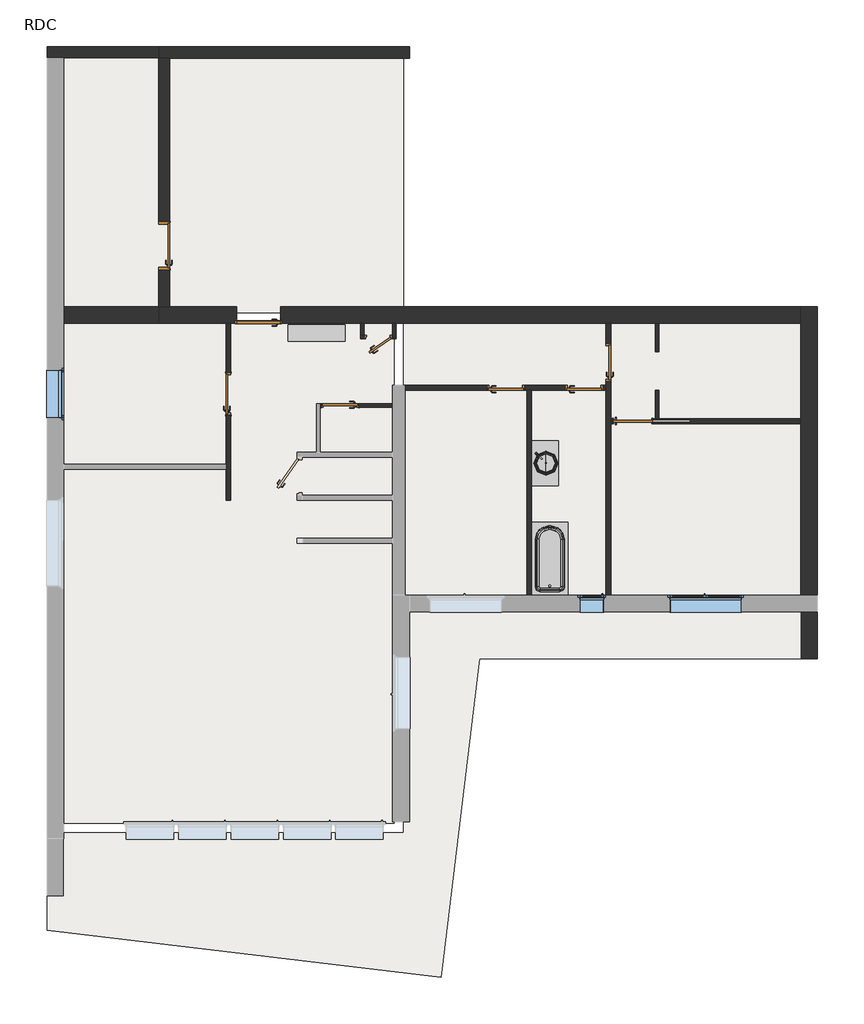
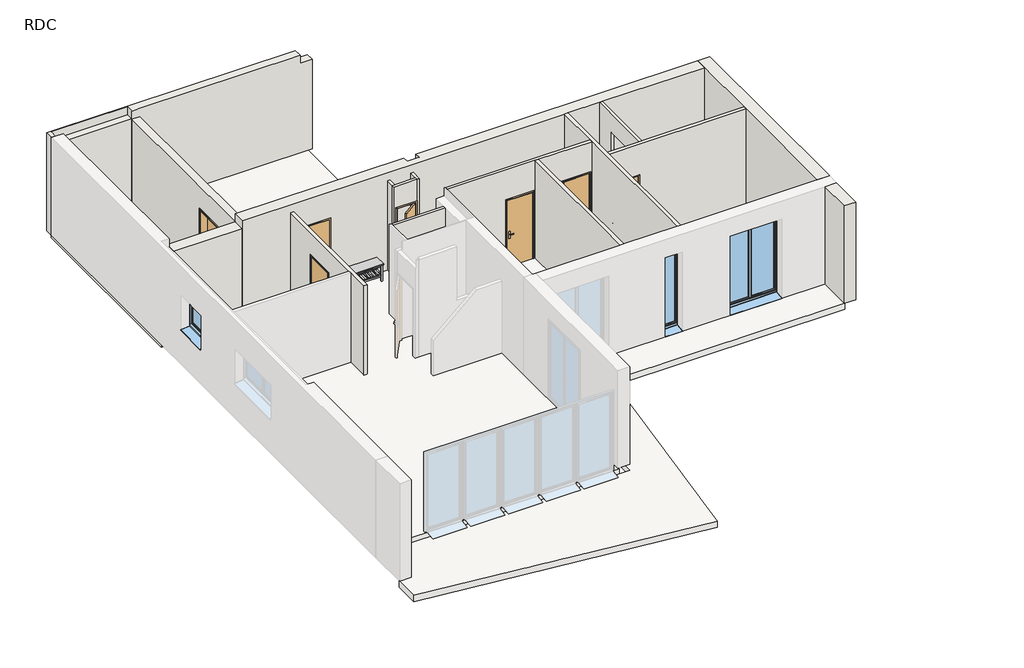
# One storey, part 2 of 2: 17 walls, 9 doors, 3 slabs, 3 windows, 2 flow terminals, 2 furniture elements.
"""IFC4 building model written with IfcOpenShell, lengths in millimetres."""

from ifc_helpers import new_model, si_unit, frame, origin, origin_with_axes, place, context, project, spatial, polyline, outline, extrude, faceted_brep, transform, mapped, element, save
from components import door_41a9e6d8, door_0_80m_x_2_04m_e0b4653d, int_simple_pp_0_53m_x_2_04m_9d17cb83, int_simple_pp_0_73m_x_2_04m_359deddd, int_simple_pp_0_73m_x_2_04m_ba43af2d, int_simple_pp_0_83m_x_2_04m_727c9c46, int_simple_pp_0_93m_x_2_04m_3c3404e0, flow_terminal_414a0167, baignoire_rectangulaire_mur_baignoire_rectangulaire_mur_52e2cdf1, furniture_1200_x_350_x_530_mm_359cf0c6, furniture_900mm_0b803dc7, window_0_50m_x_2_40m_2195513b, window_1_vantail_droit_1_00m_x_1_00m_58547b41, window_1_50m_x_2_40m_e69f112c

model = new_model("IFC4")

# Units and contexts
model_context = context("Model", 3, world=origin())
ifc_project = project(units=[si_unit("LENGTHUNIT", "METRE", prefix="MILLI")], contexts=[model_context])

# Site, building, storey
site = spatial("IfcSite", under=ifc_project)
building = spatial("IfcBuilding", under=site)
storey = spatial("IfcBuildingStorey", under=building, Name="RDC", Elevation=0.0)

# Doors
placement = place(None, origin())
door_shape = door_41a9e6d8(model_context)
element("IfcDoor", 1, ObjectType="Porte d'entrée : PP Lisse (0.90 m x 2.15 m)", at=placement, inside=storey, context=model_context, shape_type="MappedRepresentation", body=[
    mapped(door_shape, transform((-3541.697342, 2229.9574199, 0.0), x_axis=(-1.0, 0.0, 0.0), y_axis=(0.0, -1.0, 0.0), z_axis=(0.0, 0.0, 1.0))),
])
door_0_80m_x_2_04m_shape = door_0_80m_x_2_04m_e0b4653d(model_context)
element("IfcDoor", 2, ObjectType="Coulissante - Encastrée : 0.80m x 2.04m", at=placement, inside=storey, context=model_context, shape_type="MappedRepresentation", body=[
    mapped(door_0_80m_x_2_04m_shape, transform((4300.2977717, -3.0065065, 0.0), x_axis=(-1.0, 0.0, 0.0), y_axis=(0.0, -1.0, 0.0), z_axis=(0.0, 0.0, 1.0))),
])
int_simple_pp_0_53m_x_2_04m_shape = int_simple_pp_0_53m_x_2_04m_9d17cb83(model_context)
element("IfcDoor", 3, ObjectType="Int. Simple : PP (0.53m x 2.04m)", at=placement, inside=storey, context=model_context, shape_type="MappedRepresentation", body=[
    mapped(int_simple_pp_0_53m_x_2_04m_shape, transform((-983.697342, 1771.8961022, 0.0), x_axis=(1.0, 0.0, 0.0), y_axis=(0.0, 1.0, 0.0), z_axis=(0.0, 0.0, 1.0))),
])
int_simple_pp_0_73m_x_2_04m_shape = int_simple_pp_0_73m_x_2_04m_359deddd(model_context)
element("IfcDoor", 4, ObjectType="Int. Simple : PP (0.73m x 2.04m)", at=placement, inside=storey, context=model_context, shape_type="MappedRepresentation", body=[
    mapped(int_simple_pp_0_73m_x_2_04m_shape, transform((-1856.697342, 335.8961022, 0.0), x_axis=(-1.0, 0.0, 0.0), y_axis=(0.0, -1.0, 0.0), z_axis=(0.0, 0.0, 1.0))),
])
int_simple_pp_0_73m_x_2_04m_2_shape = int_simple_pp_0_73m_x_2_04m_ba43af2d(model_context)
element("IfcDoor", 5, ObjectType="Int. Simple : PP (0.73m x 2.04m)", at=placement, inside=storey, context=model_context, shape_type="MappedRepresentation", body=[
    mapped(int_simple_pp_0_73m_x_2_04m_2_shape, transform((1689.302658, 707.8961022, 0.0), x_axis=(1.0, 0.0, 0.0), y_axis=(0.0, 1.0, 0.0), z_axis=(0.0, 0.0, 1.0))),
])
element("IfcDoor", 6, ObjectType="Int. Simple : PP (0.73m x 2.04m)", at=placement, inside=storey, context=model_context, shape_type="MappedRepresentation", body=[
    mapped(int_simple_pp_0_73m_x_2_04m_2_shape, transform((3329.302658, 707.8961022, 0.0), x_axis=(1.0, 0.0, 0.0), y_axis=(0.0, 1.0, 0.0), z_axis=(0.0, 0.0, 1.0))),
])
element("IfcDoor", 7, ObjectType="Int. Simple : PP (0.73m x 2.04m)", at=placement, inside=storey, context=model_context, shape_type="MappedRepresentation", body=[
    mapped(int_simple_pp_0_73m_x_2_04m_2_shape, transform((3804.302658, 1272.8961022, 0.0), x_axis=(0.0, 1.0, 0.0), y_axis=(-1.0, 0.0, 0.0), z_axis=(0.0, 0.0, 1.0))),
])
int_simple_pp_0_83m_x_2_04m_shape = int_simple_pp_0_83m_x_2_04m_727c9c46(model_context)
element("IfcDoor", 8, ObjectType="Int. Simple : PP (0.83m x 2.04m)", at=placement, inside=storey, context=model_context, shape_type="MappedRepresentation", body=[
    mapped(int_simple_pp_0_83m_x_2_04m_shape, transform((-4161.697342, 614.9267611, 0.0), x_axis=(0.0, 1.0, 0.0), y_axis=(-1.0, 0.0, 0.0), z_axis=(0.0, 0.0, 1.0))),
])
int_simple_pp_0_93m_x_2_04m_shape = int_simple_pp_0_93m_x_2_04m_3c3404e0(model_context)
element("IfcDoor", 9, ObjectType="Int. Simple : PP (0.93m x 2.04m)", at=placement, inside=storey, context=model_context, shape_type="MappedRepresentation", body=[
    mapped(int_simple_pp_0_93m_x_2_04m_shape, transform((-5501.5193778, 3719.9574199, 0.0), x_axis=(0.0, 1.0, 0.0), y_axis=(-1.0, 0.0, 0.0), z_axis=(0.0, 0.0, 1.0))),
])

# Flow terminals
flow_terminal_shape = flow_terminal_414a0167(model_context)
element("IfcFlowTerminal", 10, ObjectType="Lavabo moderne : Lavabo moderne", at=placement, inside=storey, context=model_context, shape_type="MappedRepresentation", body=[
    mapped(flow_terminal_shape, transform((2194.302658, -893.8262703, 740.0), x_axis=(0.0, 1.0, 0.0), y_axis=(-1.0, 0.0, 0.0), z_axis=(0.0, 0.0, 1.0))),
])
baignoire_rectangulaire_mur_baignoire_rectangulaire_mur_shape = baignoire_rectangulaire_mur_baignoire_rectangulaire_mur_52e2cdf1(model_context)
element("IfcFlowTerminal", 11, ObjectType="Baignoire rectangulaire - Mur : Baignoire rectangulaire - Mur", at=placement, inside=storey, context=model_context, shape_type="MappedRepresentation", body=[
    mapped(baignoire_rectangulaire_mur_baignoire_rectangulaire_mur_shape, transform((2144.302658, -2524.4396113, 0.0), x_axis=(0.0, 1.0, 0.0), y_axis=(-1.0, 0.0, 0.0), z_axis=(0.0, 0.0, 1.0))),
])

# Furniture
furniture_1200_x_350_x_530_mm_shape = furniture_1200_x_350_x_530_mm_359cf0c6(model_context)
element("IfcFurniture", 12, ObjectType="Banc : 1200 x 350 x 530 mm", at=placement, inside=storey, context=model_context, shape_type="MappedRepresentation", body=[
    mapped(furniture_1200_x_350_x_530_mm_shape, transform((-2313.697342, 2039.796778, 0.0), x_axis=(1.0, 0.0, 0.0), y_axis=(0.0, 1.0, 0.0), z_axis=(0.0, 0.0, 1.0))),
])
furniture_900mm_shape = furniture_900mm_0b803dc7(model_context)
element("IfcFurniture", 13, ObjectType="Meuble sous lavabo - Porte simple et 2 tiroirs : 900mm", at=placement, inside=storey, context=model_context, shape_type="MappedRepresentation", body=[
    mapped(furniture_900mm_shape, transform((2194.302658, -963.9141086, 0.0), x_axis=(0.0, 1.0, 0.0), y_axis=(-1.0, 0.0, 0.0), z_axis=(0.0, 0.0, 1.0))),
])

# Slabs
element("IfcSlab", 14, ObjectType="Dalle en béton + Isolant", at=placement, inside=storey, context=model_context, shape_type="SweptSolid", body=[
    extrude(outline(polyline([(7863.302658, 2084.9574199), (7863.302658, -3665.0425801), (-486.697342, -3665.0425801), (-486.697342, 2084.9574199), (7863.302658, 2084.9574199)])), frame((0.0, 0.0, -360.0), z_axis=(0.0, 0.0, 1.0), x_axis=(1.0, 0.0, 0.0)), (0.0, 0.0, 1.0), 360.0),
    extrude(outline(polyline([(-7636.697342, -8415.0425801), (-7636.697342, 2084.9574199), (-686.697342, 2084.9574199), (-686.697342, -8415.0425801), (-7636.697342, -8415.0425801)])), frame((0.0, 0.0, -360.0), z_axis=(0.0, 0.0, 1.0), x_axis=(1.0, 0.0, 0.0)), (0.0, 0.0, 1.0), 360.0),
])
element("IfcSlab", 15, ObjectType="Dalle en béton", at=placement, inside=storey, context=model_context, shape_type="Brep", body=[
    faceted_brep([(-486.697342, 7834.9574199, -250.0), (-486.697342, 2284.9574199, -250.0), (-686.697342, 2284.9574199, -250.0), (-7636.697342, 2284.9574199, -250.0), (-7836.697342, 2284.9574199, -250.0), (-7836.697342, 7834.9574199, -250.0), (-7636.697342, 7834.9574199, -250.0), (-686.697342, 7834.9574199, -250.0), (-486.697342, 7834.9574199, 0.0), (-7836.697342, 7834.9574199, 0.0), (-7836.697342, 2284.9574199, 0.0), (-7636.697342, 2284.9574199, 0.0), (-686.697342, 2284.9574199, 0.0), (-486.697342, 2284.9574199, 0.0)], [[[0, 1, 2, 3, 4, 5, 6, 7]], [[8, 9, 10, 11, 12, 13]], [[1, 0, 8, 13]], [[4, 3, 2, 1, 13, 12, 11, 10]], [[5, 4, 10, 9]], [[0, 7, 6, 5, 9, 8]]]),
])
element("IfcSlab", 16, ObjectType="Terrasse", at=placement, inside=storey, context=model_context, shape_type="SweptSolid", body=[
    extrude(outline(polyline([(7863.302658, -3865.0425801), (7863.302658, -4967.1038978), (1099.5646631, -4967.1038978), (296.1534738, -11641.8526297), (-7957.697342, -10648.3716214), (-7957.697342, -9912.1038978), (-7636.697342, -9912.1038978), (-7636.697342, -8615.0425801), (-486.697342, -8615.0425801), (-486.697342, -3865.0425801), (7863.302658, -3865.0425801)])), frame((0.0, 0.0, -190.0), z_axis=(0.0, 0.0, 1.0), x_axis=(1.0, 0.0, 0.0)), (0.0, 0.0, 1.0), 190.0),
])

# Walls
element("IfcWall", 17, ObjectType="Ext. Bardage Bois + Isolant + Béton + Finition", at=placement, inside=storey, context=model_context, shape_type="Brep", body=[
    faceted_brep([(8183.302658, -3635.0425801, 0.0), (8183.302658, 2404.9574199, 0.0), (8183.302658, 2404.9574199, 3000.0), (8183.302658, -3635.0425801, 3000.0), (7833.302658, -3635.0425801, 0.0), (7833.302658, -3635.0425801, 3000.0), (7833.302658, -40.1038978, 3000.0), (7833.302658, 59.8961022, 3000.0), (7833.302658, 2054.9574199, 3000.0), (7833.302658, 2404.9574199, 3000.0), (7833.302658, 2404.9574199, 0.0), (7833.302658, 2054.9574199, 0.0), (7833.302658, 59.8961022, 0.0), (7833.302658, -40.1038978, 0.0)], [[[0, 1, 2, 3]], [[4, 5, 6, 7, 8, 9, 10, 11, 12, 13]], [[1, 0, 4, 13, 12, 11, 10]], [[3, 2, 9, 8, 7, 6, 5]], [[0, 3, 5, 4]], [[2, 1, 10, 9]]]),
])
element("IfcWall", 18, ObjectType="Ext. Bardage Bois + Isolant + Béton + Finition", at=placement, inside=storey, context=model_context, shape_type="Brep", body=[
    faceted_brep([(7833.302658, 2404.9574199, 3000.0), (7833.302658, 2404.9574199, 0.0), (-3071.697342, 2404.9574199, 0.0), (-3071.697342, 2404.9574199, 2160.0), (-3991.697342, 2404.9574199, 2160.0), (-3991.697342, 2404.9574199, 0.0), (-5386.5193778, 2404.9574199, 0.0), (-5616.5193778, 2404.9574199, 0.0), (-5616.5193778, 2404.9574199, 2750.0), (-5616.5193778, 2404.9574199, 3000.0), (-716.697342, 2404.9574199, 3000.0), (-716.697342, 2404.9574199, 2750.0), (-366.697342, 2404.9574199, 2750.0), (-366.697342, 2404.9574199, 3000.0), (7833.302658, 2054.9574199, 3000.0), (4856.302658, 2054.9574199, 3000.0), (4784.302658, 2054.9574199, 3000.0), (3854.302658, 2054.9574199, 3000.0), (3754.302658, 2054.9574199, 3000.0), (-5616.5193778, 2054.9574199, 3000.0), (-5616.5193778, 2054.9574199, 2750.0), (-5616.5193778, 2054.9574199, 0.0), (-4211.697342, 2054.9574199, 0.0), (-4111.697342, 2054.9574199, 0.0), (-4021.697342, 2054.9574199, 0.0), (-4021.697342, 2054.9574199, 2190.0), (-3041.697342, 2054.9574199, 2190.0), (-3041.697342, 2054.9574199, 0.0), (-1392.697342, 2054.9574199, 0.0), (-1320.697342, 2054.9574199, 0.0), (-716.697342, 2054.9574199, 0.0), (-644.697342, 2054.9574199, 0.0), (3754.302658, 2054.9574199, 0.0), (3854.302658, 2054.9574199, 0.0), (4784.302658, 2054.9574199, 0.0), (4856.302658, 2054.9574199, 0.0), (7833.302658, 2054.9574199, 0.0), (-3041.697342, 2111.9574199, 0.0), (-3056.697342, 2111.9574199, 0.0), (-3056.697342, 2154.9574199, 0.0), (-3071.697342, 2154.9574199, 0.0), (-3991.697342, 2154.9574199, 0.0), (-4006.697342, 2154.9574199, 0.0), (-4006.697342, 2111.9574199, 0.0), (-4021.697342, 2111.9574199, 0.0), (-366.697342, 2229.9574199, 3000.0), (-716.697342, 2229.9574199, 3000.0), (-366.697342, 2229.9574199, 2750.0), (-716.697342, 2229.9574199, 2750.0), (-716.697342, 2284.9574199, 2750.0), (-486.697342, 2229.9574199, 2750.0), (-3071.697342, 2154.9574199, 2160.0), (-3991.697342, 2154.9574199, 2160.0), (-4006.697342, 2111.9574199, 2175.0), (-3056.697342, 2111.9574199, 2175.0), (-3041.697342, 2111.9574199, 2190.0), (-4021.697342, 2111.9574199, 2190.0), (-3056.697342, 2154.9574199, 2175.0), (-4006.697342, 2154.9574199, 2175.0)], [[[0, 1, 2, 3, 4, 5, 6, 7, 8, 9, 10, 11, 12, 13]], [[14, 15, 16, 17, 18, 19, 20, 21, 22, 23, 24, 25, 26, 27, 28, 29, 30, 31, 32, 33, 34, 35, 36]], [[1, 36, 35, 34, 33, 32, 31, 30, 29, 28, 27, 37, 38, 39, 40, 2]], [[21, 7, 6, 5, 41, 42, 43, 44, 24, 23, 22]], [[19, 18, 17, 16, 15, 14, 0, 13, 45, 46, 10, 9]], [[1, 0, 14, 36]], [[9, 8, 7, 21, 20, 19]], [[47, 45, 13, 12]], [[48, 49, 11, 10, 46]], [[48, 50, 47, 12, 11, 49]], [[47, 50, 48, 46, 45]], [[51, 52, 4, 3]], [[52, 41, 5, 4]], [[40, 51, 3, 2]], [[43, 53, 54, 38, 37, 55, 56, 44]], [[55, 37, 27, 26]], [[56, 55, 26, 25]], [[44, 56, 25, 24]], [[38, 54, 57, 39]], [[52, 51, 40, 39, 57, 58, 42, 41]], [[54, 53, 58, 57]], [[53, 43, 42, 58]]]),
])
element("IfcWall", 19, ObjectType="Int. Plâtre 100 mm", at=placement, inside=storey, context=model_context, shape_type="Brep", body=[
    faceted_brep([(-4111.697342, -1645.1038978, 2750.0), (-4111.697342, -1645.1038978, 0.0), (-4111.697342, 129.9267611, 0.0), (-4111.697342, 129.9267611, 2075.0), (-4111.697342, 1029.9267611, 2075.0), (-4111.697342, 1029.9267611, 0.0), (-4111.697342, 2054.9574199, 0.0), (-4111.697342, 2054.9574199, 2750.0), (-4211.697342, -1645.1038978, 0.0), (-4211.697342, -1645.1038978, 2750.0), (-4211.697342, -995.1038978, 2750.0), (-4211.697342, -895.1038978, 2750.0), (-4211.697342, 2054.9574199, 2750.0), (-4211.697342, 2054.9574199, 0.0), (-4211.697342, 1029.9267611, 0.0), (-4211.697342, 1029.9267611, 2075.0), (-4211.697342, 129.9267611, 2075.0), (-4211.697342, 129.9267611, 0.0), (-4211.697342, -895.1038978, 0.0), (-4211.697342, -995.1038978, 0.0)], [[[0, 1, 2, 3, 4, 5, 6, 7]], [[8, 9, 10, 11, 12, 13, 14, 15, 16, 17, 18, 19]], [[1, 8, 19, 18, 17, 2]], [[13, 6, 5, 14]], [[1, 0, 9, 8]], [[7, 6, 13, 12]], [[0, 7, 12, 11, 10, 9]], [[4, 15, 14, 5]], [[15, 4, 3, 16]], [[16, 3, 2, 17]]]),
])
element("IfcWall", 20, ObjectType="Int. Plâtre 100 mm", at=placement, inside=storey, context=model_context, shape_type="Brep", body=[
    faceted_brep([(3754.302658, 657.8961022, 3000.0), (2194.302658, 657.8961022, 3000.0), (2094.302658, 657.8961022, 3000.0), (-456.697342, 657.8961022, 3000.0), (-456.697342, 657.8961022, 0.0), (1254.302658, 657.8961022, 0.0), (1254.302658, 657.8961022, 2075.0), (2054.302658, 657.8961022, 2075.0), (2054.302658, 657.8961022, 0.0), (2094.302658, 657.8961022, 0.0), (2194.302658, 657.8961022, 0.0), (2894.302658, 657.8961022, 0.0), (2894.302658, 657.8961022, 2075.0), (3694.302658, 657.8961022, 2075.0), (3694.302658, 657.8961022, 0.0), (3754.302658, 657.8961022, 0.0), (-456.697342, 757.8961022, 3000.0), (3754.302658, 757.8961022, 3000.0), (3754.302658, 757.8961022, 0.0), (3694.302658, 757.8961022, 0.0), (3694.302658, 757.8961022, 2075.0), (2894.302658, 757.8961022, 2075.0), (2894.302658, 757.8961022, 0.0), (2054.302658, 757.8961022, 0.0), (2054.302658, 757.8961022, 2075.0), (1254.302658, 757.8961022, 2075.0), (1254.302658, 757.8961022, 0.0), (-456.697342, 757.8961022, 0.0)], [[[0, 1, 2, 3, 4, 5, 6, 7, 8, 9, 10, 11, 12, 13, 14, 15]], [[16, 17, 18, 19, 20, 21, 22, 23, 24, 25, 26, 27]], [[18, 15, 14, 19]], [[4, 27, 26, 5]], [[8, 23, 22, 11, 10, 9]], [[3, 2, 1, 0, 17, 16]], [[0, 15, 18, 17]], [[4, 3, 16, 27]], [[7, 24, 23, 8]], [[24, 7, 6, 25]], [[25, 6, 5, 26]], [[13, 20, 19, 14]], [[20, 13, 12, 21]], [[21, 12, 11, 22]]]),
])
element("IfcWall", 21, ObjectType="Int. Plâtre 100 mm", at=placement, inside=storey, context=model_context, shape_type="Brep", body=[
    faceted_brep([(3754.302658, -3635.0425801, 3000.0), (3754.302658, 657.8961022, 3000.0), (3754.302658, 757.8961022, 3000.0), (3754.302658, 2054.9574199, 3000.0), (3754.302658, 2054.9574199, 0.0), (3754.302658, 1637.8961022, 0.0), (3754.302658, 1637.8961022, 2075.0), (3754.302658, 837.8961022, 2075.0), (3754.302658, 837.8961022, 0.0), (3754.302658, 757.8961022, 0.0), (3754.302658, 657.8961022, 0.0), (3754.302658, -3635.0425801, 0.0), (3754.302658, -3635.0425801, 35.0), (3754.302658, -3635.0425801, 2485.0), (3854.302658, 2054.9574199, 3000.0), (3854.302658, 59.8961022, 3000.0), (3854.302658, -40.1038978, 3000.0), (3854.302658, -3635.0425801, 3000.0), (3854.302658, -3635.0425801, 0.0), (3854.302658, -40.1038978, 0.0), (3854.302658, 59.8961022, 0.0), (3854.302658, 837.8961022, 0.0), (3854.302658, 837.8961022, 2075.0), (3854.302658, 1637.8961022, 2075.0), (3854.302658, 1637.8961022, 0.0), (3854.302658, 2054.9574199, 0.0)], [[[0, 1, 2, 3, 4, 5, 6, 7, 8, 9, 10, 11, 12, 13]], [[14, 15, 16, 17, 18, 19, 20, 21, 22, 23, 24, 25]], [[4, 25, 24, 5]], [[18, 11, 10, 9, 8, 21, 20, 19]], [[3, 2, 1, 0, 17, 16, 15, 14]], [[0, 13, 12, 11, 18, 17]], [[4, 3, 14, 25]], [[23, 6, 5, 24]], [[6, 23, 22, 7]], [[7, 22, 21, 8]]]),
])
element("IfcWall", 22, ObjectType="Int. Plâtre 100 mm", at=placement, inside=storey, context=model_context, shape_type="Brep", body=[
    faceted_brep([(3854.302658, 59.8961022, 3000.0), (4784.302658, 59.8961022, 3000.0), (4856.302658, 59.8961022, 3000.0), (7833.302658, 59.8961022, 3000.0), (7833.302658, 59.8961022, 0.0), (4856.302658, 59.8961022, 0.0), (4784.302658, 59.8961022, 0.0), (4724.302658, 59.8961022, 0.0), (4724.302658, 59.8961022, 2055.0), (3894.302658, 59.8961022, 2055.0), (3894.302658, 59.8961022, 0.0), (3854.302658, 59.8961022, 0.0), (7833.302658, -40.1038978, 3000.0), (3854.302658, -40.1038978, 3000.0), (3854.302658, -40.1038978, 0.0), (3894.302658, -40.1038978, 0.0), (3894.302658, -40.1038978, 2055.0), (4724.302658, -40.1038978, 2055.0), (4724.302658, -40.1038978, 0.0), (7833.302658, -40.1038978, 0.0), (4724.302658, -15.1038978, 0.0), (5524.302658, -15.1038978, 0.0), (5524.302658, 34.8961022, 0.0), (4724.302658, 34.8961022, 0.0), (4724.302658, 34.8961022, 2055.0), (5524.302658, 34.8961022, 2055.0), (5524.302658, -15.1038978, 2055.0), (4724.302658, -15.1038978, 2055.0)], [[[0, 1, 2, 3, 4, 5, 6, 7, 8, 9, 10, 11]], [[12, 13, 14, 15, 16, 17, 18, 19]], [[4, 19, 18, 20, 21, 22, 23, 7, 6, 5]], [[14, 11, 10, 15]], [[3, 2, 1, 0, 13, 12]], [[4, 3, 12, 19]], [[0, 11, 14, 13]], [[24, 25, 26, 27, 17, 16, 9, 8]], [[9, 16, 15, 10]], [[23, 24, 8, 7]], [[25, 24, 23, 22]], [[26, 25, 22, 21]], [[27, 26, 21, 20]], [[27, 20, 18, 17]]]),
])
element("IfcWall", 23, ObjectType="Int. Plâtre 100 mm", at=placement, inside=storey, context=model_context, shape_type="SweptSolid", body=[
    extrude(outline(polyline([(2094.302658, -3635.0425801), (2094.302658, 657.8961022), (2194.302658, 657.8961022), (2194.302658, -3635.0425801), (2094.302658, -3635.0425801)])), origin_with_axes(), (0.0, 0.0, 1.0), 3000.0),
])
element("IfcWall", 24, ObjectType="Int. Plâtre 70 mm", at=placement, inside=storey, context=model_context, shape_type="SweptSolid", body=[
    extrude(outline(polyline([(2750.0, -2241.697342), (0.0, -2241.697342), (0.0, -2221.697342), (2075.0, -2221.697342), (2075.0, -1421.697342), (0.0, -1421.697342), (0.0, -716.697342), (2750.0, -716.697342), (2750.0, -2241.697342)])), frame((0.0, 299.8961022, 0.0), z_axis=(0.0, 1.0, 0.0), x_axis=(0.0, 0.0, 1.0)), (0.0, 0.0, 1.0), 72.0),
])
element("IfcWall", 25, ObjectType="Int. Plâtre 70 mm", at=placement, inside=storey, context=model_context, shape_type="SweptSolid", body=[
    extrude(outline(polyline([(59.8961022, 0.0), (59.8961022, 3000.0), (2054.9574199, 3000.0), (2054.9574199, 0.0), (1463.4416882, 0.0), (1463.4416882, 2438.4), (659.8961022, 2438.4), (659.8961022, 0.0), (59.8961022, 0.0)])), frame((4784.302658, 0.0, 0.0), z_axis=(1.0, 0.0, 0.0), x_axis=(0.0, 1.0, 0.0)), (0.0, 0.0, 1.0), 72.0),
])
element("IfcWall", 26, ObjectType="Int. Plâtre 70 mm", at=placement, inside=storey, context=model_context, shape_type="Brep", body=[
    faceted_brep([(-716.697342, 2054.9574199, 0.0), (-716.697342, 1807.8961022, 0.0), (-716.697342, 1735.8961022, 0.0), (-716.697342, 1735.8961022, 2750.0), (-716.697342, 1807.8961022, 2750.0), (-716.697342, 2054.9574199, 2750.0), (-644.697342, 2054.9574199, 0.0), (-644.697342, 2054.9574199, 2750.0), (-644.697342, 1735.8961022, 2750.0), (-644.697342, 1735.8961022, 0.0)], [[[0, 1, 2, 3, 4, 5]], [[6, 7, 8, 9]], [[2, 1, 0, 6, 9]], [[0, 5, 7, 6]], [[3, 2, 9, 8]], [[5, 4, 3, 8, 7]]]),
])
element("IfcWall", 27, ObjectType="Int. Plâtre 70 mm", at=placement, inside=storey, context=model_context, shape_type="Brep", body=[
    faceted_brep([(-716.697342, 1807.8961022, 2750.0), (-716.697342, 1807.8961022, 0.0), (-718.697342, 1807.8961022, 0.0), (-718.697342, 1807.8961022, 2075.0), (-1318.697342, 1807.8961022, 2075.0), (-1318.697342, 1807.8961022, 0.0), (-1320.697342, 1807.8961022, 0.0), (-1392.697342, 1807.8961022, 0.0), (-1392.697342, 1807.8961022, 2750.0), (-1320.697342, 1807.8961022, 2750.0), (-716.697342, 1735.8961022, 0.0), (-716.697342, 1735.8961022, 2750.0), (-1392.697342, 1735.8961022, 2750.0), (-1392.697342, 1735.8961022, 0.0), (-1318.697342, 1735.8961022, 0.0), (-1318.697342, 1735.8961022, 2075.0), (-718.697342, 1735.8961022, 2075.0), (-718.697342, 1735.8961022, 0.0)], [[[0, 1, 2, 3, 4, 5, 6, 7, 8, 9]], [[10, 11, 12, 13, 14, 15, 16, 17]], [[1, 10, 17, 2]], [[13, 7, 6, 5, 14]], [[1, 0, 11, 10]], [[8, 7, 13, 12]], [[0, 9, 8, 12, 11]], [[16, 3, 2, 17]], [[3, 16, 15, 4]], [[4, 15, 14, 5]]]),
])
element("IfcWall", 28, ObjectType="Int. Plâtre 70 mm", at=placement, inside=storey, context=model_context, shape_type="SweptSolid", body=[
    extrude(outline(polyline([(-1320.697342, 2054.9574199), (-1320.697342, 1807.8961022), (-1392.697342, 1807.8961022), (-1392.697342, 2054.9574199), (-1320.697342, 2054.9574199)])), origin_with_axes(), (0.0, 0.0, 1.0), 2750.0),
])
element("IfcWall", 29, ObjectType="Ext. Bardage Métal + Béton + Finition", at=placement, inside=storey, context=model_context, shape_type="SweptSolid", body=[
    extrude(outline(polyline([(7614.9574199, 0.0), (4184.9574199, 0.0), (4184.9574199, 2075.0), (3184.9574199, 2075.0), (3184.9574199, 0.0), (2404.9574199, 0.0), (2404.9574199, 2750.0), (7614.9574199, 2750.0), (7614.9574199, 0.0)])), frame((-5616.5193778, 0.0, 0.0), z_axis=(1.0, 0.0, 0.0), x_axis=(0.0, 1.0, 0.0)), (0.0, 0.0, 1.0), 230.0),
])
element("IfcWall", 30, ObjectType="Ext. Bardage Bois +  Béton + Bardage Métal", at=placement, inside=storey, context=model_context, shape_type="Brep", body=[
    faceted_brep([(-5616.5193778, 7614.9574199, 0.0), (-5386.5193778, 7614.9574199, 0.0), (-366.697342, 7614.9574199, 0.0), (-366.697342, 7614.9574199, 2750.0), (-716.697342, 7614.9574199, 2750.0), (-716.697342, 7614.9574199, 3000.0), (-5386.5193778, 7614.9574199, 3000.0), (-5616.5193778, 7614.9574199, 3000.0), (-366.697342, 7854.9574199, 0.0), (-5616.5193778, 7854.9574199, 0.0), (-5616.5193778, 7854.9574199, 3000.0), (-716.697342, 7854.9574199, 3000.0), (-716.697342, 7854.9574199, 2750.0), (-366.697342, 7854.9574199, 2750.0), (-5616.5193778, 7624.9574199, 0.0), (-5616.5193778, 7624.9574199, 3000.0), (-716.697342, 7624.9574199, 3000.0)], [[[0, 1, 2, 3, 4, 5, 6, 7]], [[8, 9, 10, 11, 12, 13]], [[2, 1, 0, 14, 9, 8]], [[2, 8, 13, 3]], [[10, 15, 7, 6, 5, 16, 11]], [[0, 7, 15, 10, 9, 14]], [[4, 12, 11, 16, 5]], [[12, 4, 3, 13]]]),
])
element("IfcWall", 31, ObjectType="Ext. Bardage Bois + Béton + Finition", at=placement, inside=storey, context=model_context, shape_type="Brep", body=[
    faceted_brep([(-7956.697342, 7624.9574199, 0.0), (-7606.697342, 7624.9574199, 0.0), (-5616.5193778, 7624.9574199, 0.0), (-5616.5193778, 7624.9574199, 2750.0), (-7836.697342, 7624.9574199, 2750.0), (-7836.697342, 7624.9574199, 3000.0), (-7956.697342, 7624.9574199, 3000.0), (-5616.5193778, 7854.9574199, 0.0), (-7956.697342, 7854.9574199, 0.0), (-7956.697342, 7854.9574199, 3000.0), (-7606.697342, 7854.9574199, 3000.0), (-5616.5193778, 7854.9574199, 3000.0), (-7836.697342, 7834.9574199, 3000.0), (-5616.5193778, 7834.9574199, 3000.0), (-5616.5193778, 7834.9574199, 2750.0), (-7836.697342, 7834.9574199, 2750.0)], [[[0, 1, 2, 3, 4, 5, 6]], [[7, 8, 9, 10, 11]], [[2, 1, 0, 8, 7]], [[11, 10, 9, 6, 5, 12, 13]], [[0, 6, 9, 8]], [[2, 7, 11, 13, 14, 3]], [[14, 15, 4, 3]], [[15, 12, 5, 4]], [[12, 15, 14, 13]]]),
])
element("IfcWall", 32, ObjectType="Ext. Bardage Bois + Isolant + Béton + Bardage Métal", at=placement, inside=storey, context=model_context, shape_type="SweptSolid", body=[
    extrude(outline(polyline([(7843.302658, -4967.1038978), (7843.302658, -3985.0425801), (8183.302658, -3985.0425801), (8183.302658, -4967.1038978), (7843.302658, -4967.1038978)])), origin_with_axes(), (0.0, 0.0, 1.0), 3000.0),
])
element("IfcWall", 33, ObjectType="Int. Finition + Isolant + Béton + Finition", at=placement, inside=storey, context=model_context, shape_type="Brep", body=[
    faceted_brep([(-5616.5193778, 2404.9574199, 0.0), (-7606.697342, 2404.9574199, 0.0), (-7606.697342, 2404.9574199, 2750.0), (-5616.5193778, 2404.9574199, 2750.0), (-7606.697342, 2054.9574199, 0.0), (-5616.5193778, 2054.9574199, 0.0), (-5616.5193778, 2054.9574199, 2750.0), (-7606.697342, 2054.9574199, 2750.0), (-7606.697342, 2284.9574199, 2750.0)], [[[0, 1, 2, 3]], [[4, 5, 6, 7]], [[1, 0, 5, 4]], [[1, 4, 7, 8, 2]], [[5, 0, 3, 6]], [[7, 6, 3, 2, 8]]]),
])

# Windows
window_0_50m_x_2_40m_shape = window_0_50m_x_2_40m_2195513b(model_context)
element("IfcWindow", 34, ObjectType="PF 1 Vantail - Droite : 0.50m x 2.40m", at=placement, inside=storey, context=model_context, shape_type="MappedRepresentation", body=[
    mapped(window_0_50m_x_2_40m_shape, transform((3454.302658, -3810.0425801, 0.0), x_axis=(-1.0, 0.0, 0.0), y_axis=(0.0, -1.0, 0.0), z_axis=(0.0, 0.0, 1.0))),
])
window_1_vantail_droit_1_00m_x_1_00m_shape = window_1_vantail_droit_1_00m_x_1_00m_58547b41(model_context)
element("IfcWindow", 35, ObjectType="1 Vantail - Droit : 1.00m x 1.00m", at=placement, inside=storey, context=model_context, shape_type="MappedRepresentation", body=[
    mapped(window_1_vantail_droit_1_00m_x_1_00m_shape, transform((-7781.697342, 579.9267611, 300.0), x_axis=(0.0, 1.0, 0.0), y_axis=(-1.0, 0.0, 0.0), z_axis=(0.0, 0.0, 1.0))),
])
window_1_50m_x_2_40m_shape = window_1_50m_x_2_40m_e69f112c(model_context)
element("IfcWindow", 36, ObjectType="PF 2 Vantaux - Droits : 1.50m x 2.40m", at=placement, inside=storey, context=model_context, shape_type="MappedRepresentation", body=[
    mapped(window_1_50m_x_2_40m_shape, transform((5843.802658, -3810.0425801, 0.0), x_axis=(-1.0, 0.0, 0.0), y_axis=(0.0, -1.0, 0.0), z_axis=(0.0, 0.0, 1.0))),
])

save(model, "model.ifc")
